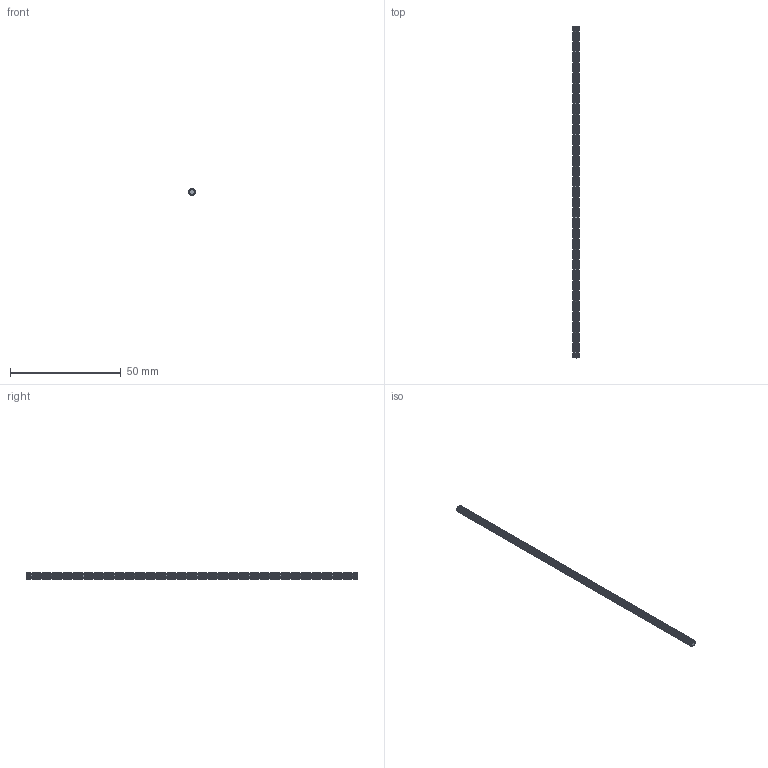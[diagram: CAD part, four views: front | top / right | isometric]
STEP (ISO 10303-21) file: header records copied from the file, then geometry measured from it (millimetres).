
FILE_DESCRIPTION (( 'STEP AP214' ), '1' );
FILE_NAME ('631-00535 M3 Threaded Rod, 1.5U.STEP', '2017-01-23T17:36:56', ( '' ), ( '' ), 'SwSTEP 2.0', 'SolidWorks 2014', '' );
FILE_SCHEMA (( 'AUTOMOTIVE_DESIGN' ));
Length unit declared in the file: millimetre
Products named in the file (2): 631-00535 M3 Threaded Rod, 1.5U
Bounding box: 3 x 150 x 3 mm (x, y, z)
Volume: 783.7 mm3; surface area: 2426.5 mm2
Topology: 1 solids, 1 shells, 1202 faces, 2402 edges, 1202 vertices
Faces by surface type: cone 1200, plane 2
Entity records: 30093 total; most frequent: DIRECTION 6012, CARTESIAN_POINT 4808, ORIENTED_EDGE 4804, AXIS2_PLACEMENT_3D 2406, EDGE_CURVE 2402, ADVANCED_FACE 1202, VERTEX_POINT 1202, CIRCLE 1202
